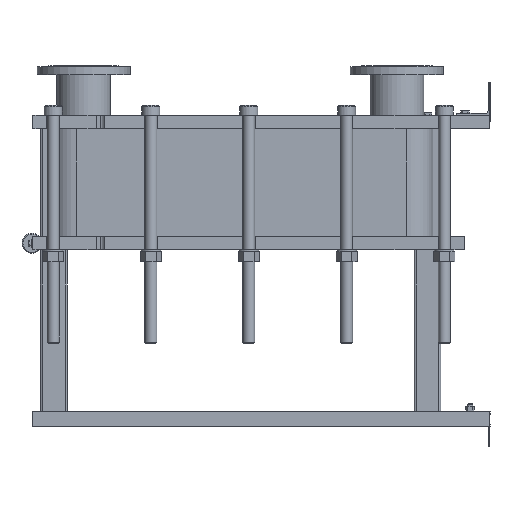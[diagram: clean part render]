
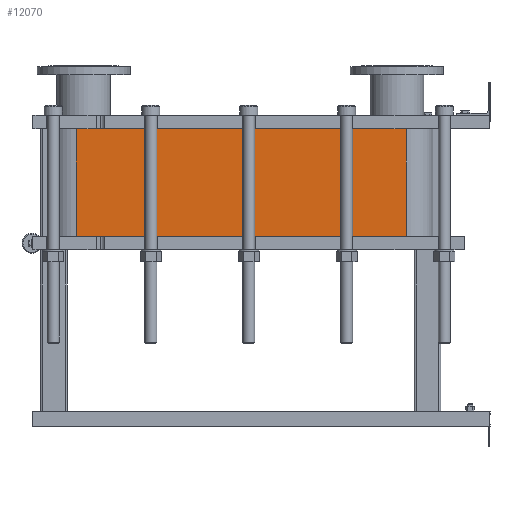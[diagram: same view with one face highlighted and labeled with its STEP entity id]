
A CAD part, left-side view. The second image highlights one B-rep face of the part: STEP entity #12070.
In plain terms, the highlighted planar face has unit normal (-1, 0, 0).
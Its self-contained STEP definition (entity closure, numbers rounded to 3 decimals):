
#1064=LINE('',#21140,#2164);
#1065=LINE('',#21144,#2165);
#1066=LINE('',#21146,#2166);
#1067=LINE('',#21147,#2167);
#2164=VECTOR('',#15790,10.);
#2165=VECTOR('',#15795,10.);
#2166=VECTOR('',#15796,10.);
#2167=VECTOR('',#15797,10.);
#3304=FACE_OUTER_BOUND('',#4091,.T.);
#4091=EDGE_LOOP('',(#9793,#9794,#9795,#9796));
#5677=VERTEX_POINT('',#21137);
#5678=VERTEX_POINT('',#21139);
#5679=VERTEX_POINT('',#21143);
#5680=VERTEX_POINT('',#21145);
#7118=EDGE_CURVE('',#5678,#5677,#1064,.T.);
#7120=EDGE_CURVE('',#5677,#5679,#1065,.T.);
#7121=EDGE_CURVE('',#5680,#5679,#1066,.T.);
#7122=EDGE_CURVE('',#5680,#5678,#1067,.T.);
#9793=ORIENTED_EDGE('',*,*,#7120,.T.);
#9794=ORIENTED_EDGE('',*,*,#7121,.F.);
#9795=ORIENTED_EDGE('',*,*,#7122,.T.);
#9796=ORIENTED_EDGE('',*,*,#7118,.T.);
#11441=PLANE('',#13191);
#12070=ADVANCED_FACE('',(#3304),#11441,.T.);
#13191=AXIS2_PLACEMENT_3D('',#21142,#15793,#15794);
#15790=DIRECTION('',(0.,0.,-1.));
#15793=DIRECTION('center_axis',(-1.,0.,0.));
#15794=DIRECTION('ref_axis',(0.,1.,0.));
#15795=DIRECTION('',(0.,-1.,0.));
#15796=DIRECTION('',(0.,0.,-1.));
#15797=DIRECTION('',(0.,1.,0.));
#21137=CARTESIAN_POINT('',(-248.152,1243.818,-324.3));
#21139=CARTESIAN_POINT('',(-248.152,1243.818,0.));
#21140=CARTESIAN_POINT('',(-248.152,1243.818,0.));
#21142=CARTESIAN_POINT('Origin',(-248.152,251.818,0.));
#21143=CARTESIAN_POINT('',(-248.152,251.818,-324.3));
#21144=CARTESIAN_POINT('',(-248.152,499.818,-324.3));
#21145=CARTESIAN_POINT('',(-248.152,251.818,0.));
#21146=CARTESIAN_POINT('',(-248.152,251.818,0.));
#21147=CARTESIAN_POINT('',(-248.152,251.818,0.));
